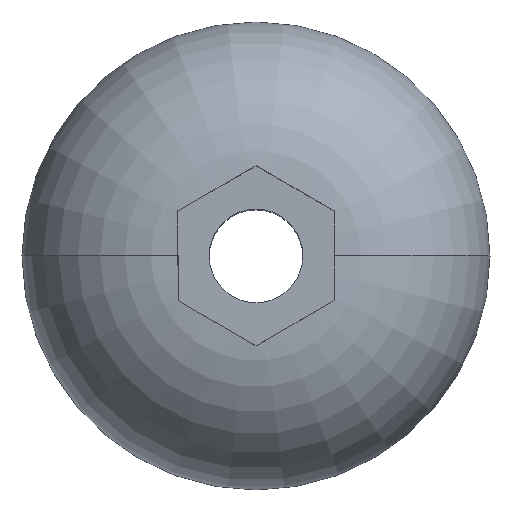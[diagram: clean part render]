
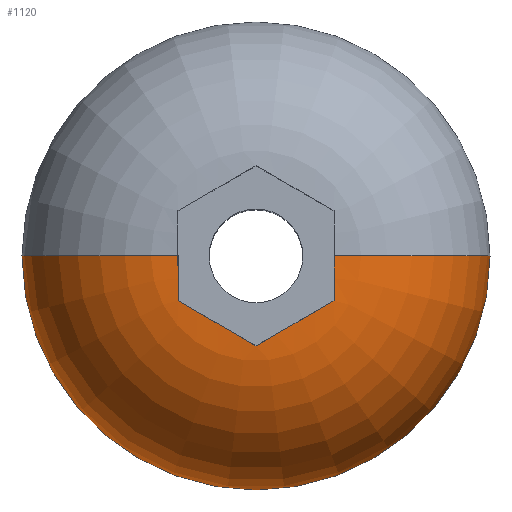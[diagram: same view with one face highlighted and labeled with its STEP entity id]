
A CAD part, top view. The second image highlights one B-rep face of the part: STEP entity #1120.
In plain terms, the highlighted toroidal (fillet/blend) face has major radius 0.75 mm and minor radius 1.5 mm.
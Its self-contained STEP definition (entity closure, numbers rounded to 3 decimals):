
#16 = EDGE_CURVE ( 'NONE', #327, #234, #757, .T. ) ;
#18 = DIRECTION ( 'NONE',  ( 0., 0., 1. ) ) ;
#97 = CARTESIAN_POINT ( 'NONE',  ( -0.125, -0.794, 1.501 ) ) ;
#99 = CARTESIAN_POINT ( 'NONE',  ( 0., -0.866, 1.496 ) ) ;
#108 = CARTESIAN_POINT ( 'NONE',  ( 0.125, -0.794, 1.501 ) ) ;
#110 = ORIENTED_EDGE ( 'NONE', *, *, #1169, .T. ) ;
#119 = EDGE_LOOP ( 'NONE', ( #1206, #110, #634, #876, #715, #673, #739 ) ) ;
#131 = DIRECTION ( 'NONE',  ( 0., 1., 0. ) ) ;
#140 = CARTESIAN_POINT ( 'NONE',  ( -0.75, -0.144, 1.5 ) ) ;
#145 = CARTESIAN_POINT ( 'NONE',  ( -0.75, 0., 1.5 ) ) ;
#147 = B_SPLINE_CURVE_WITH_KNOTS ( 'NONE', 3,
 ( #1241, #1252, #724, #108, #605 ),
 .UNSPECIFIED., .F., .F.,
 ( 4, 1, 4 ),
 ( 0., 0., 0.001 ),
 .UNSPECIFIED. ) ;
#234 = VERTEX_POINT ( 'NONE', #1114 ) ;
#285 = EDGE_CURVE ( 'NONE', #1006, #965, #147, .T. ) ;
#310 = CARTESIAN_POINT ( 'NONE',  ( -0.75, -0.433, 1.496 ) ) ;
#311 = VERTEX_POINT ( 'NONE', #406 ) ;
#327 = VERTEX_POINT ( 'NONE', #818 ) ;
#343 = CARTESIAN_POINT ( 'NONE',  ( 0., 0., 0. ) ) ;
#363 = CARTESIAN_POINT ( 'NONE',  ( -2.25, 0., 0. ) ) ;
#364 = EDGE_CURVE ( 'NONE', #965, #327, #857, .T. ) ;
#379 = CIRCLE ( 'NONE', #504, 1.5 ) ;
#405 = AXIS2_PLACEMENT_3D ( 'NONE', #343, #18, #641 ) ;
#406 = CARTESIAN_POINT ( 'NONE',  ( 2.25, 0., 0. ) ) ;
#418 = FACE_OUTER_BOUND ( 'NONE', #119, .T. ) ;
#430 = DIRECTION ( 'NONE',  ( 0., 0., 1. ) ) ;
#448 = CARTESIAN_POINT ( 'NONE',  ( 0.75, -0.072, 1.5 ) ) ;
#504 = AXIS2_PLACEMENT_3D ( 'NONE', #1109, #1333, #1214 ) ;
#505 = CARTESIAN_POINT ( 'NONE',  ( -0.375, -0.65, 1.499 ) ) ;
#574 = VERTEX_POINT ( 'NONE', #1180 ) ;
#605 = CARTESIAN_POINT ( 'NONE',  ( 0., -0.866, 1.496 ) ) ;
#634 = ORIENTED_EDGE ( 'NONE', *, *, #1307, .T. ) ;
#641 = DIRECTION ( 'NONE',  ( 1., 0., 0. ) ) ;
#673 = ORIENTED_EDGE ( 'NONE', *, *, #364, .T. ) ;
#715 = ORIENTED_EDGE ( 'NONE', *, *, #285, .T. ) ;
#724 = CARTESIAN_POINT ( 'NONE',  ( 0.375, -0.65, 1.499 ) ) ;
#739 = ORIENTED_EDGE ( 'NONE', *, *, #16, .T. ) ;
#748 = CARTESIAN_POINT ( 'NONE',  ( -0.75, -0.289, 1.499 ) ) ;
#757 = B_SPLINE_CURVE_WITH_KNOTS ( 'NONE', 3,
 ( #1163, #958, #748, #140, #849, #145 ),
 .UNSPECIFIED., .F., .F.,
 ( 4, 2, 4 ),
 ( 0.011, 0.012, 0.012 ),
 .UNSPECIFIED. ) ;
#773 = CARTESIAN_POINT ( 'NONE',  ( 0.75, 0., 1.5 ) ) ;
#809 = CARTESIAN_POINT ( 'NONE',  ( -0.625, -0.505, 1.501 ) ) ;
#818 = CARTESIAN_POINT ( 'NONE',  ( -0.75, -0.433, 1.496 ) ) ;
#849 = CARTESIAN_POINT ( 'NONE',  ( -0.75, -0.071, 1.5 ) ) ;
#857 = B_SPLINE_CURVE_WITH_KNOTS ( 'NONE', 3,
 ( #1134, #97, #505, #809, #310 ),
 .UNSPECIFIED., .F., .F.,
 ( 4, 1, 4 ),
 ( 0., 0., 0.001 ),
 .UNSPECIFIED. ) ;
#876 = ORIENTED_EDGE ( 'NONE', *, *, #1251, .T. ) ;
#878 = CIRCLE ( 'NONE', #1249, 1.5 ) ;
#888 = CARTESIAN_POINT ( 'NONE',  ( 0.75, -0.433, 1.496 ) ) ;
#944 = CARTESIAN_POINT ( 'NONE',  ( 0.75, -0.433, 1.496 ) ) ;
#958 = CARTESIAN_POINT ( 'NONE',  ( -0.75, -0.361, 1.498 ) ) ;
#965 = VERTEX_POINT ( 'NONE', #99 ) ;
#971 = CARTESIAN_POINT ( 'NONE',  ( 0.75, -0.144, 1.5 ) ) ;
#976 = B_SPLINE_CURVE_WITH_KNOTS ( 'NONE', 3,
 ( #773, #448, #971, #983, #1076, #888 ),
 .UNSPECIFIED., .F., .F.,
 ( 4, 2, 4 ),
 ( 0., 0., 0. ),
 .UNSPECIFIED. ) ;
#981 = AXIS2_PLACEMENT_3D ( 'NONE', #1161, #430, #1275 ) ;
#983 = CARTESIAN_POINT ( 'NONE',  ( 0.75, -0.289, 1.499 ) ) ;
#1006 = VERTEX_POINT ( 'NONE', #944 ) ;
#1057 = DIRECTION ( 'NONE',  ( -1., 0., 0. ) ) ;
#1076 = CARTESIAN_POINT ( 'NONE',  ( 0.75, -0.361, 1.498 ) ) ;
#1087 = CIRCLE ( 'NONE', #981, 2.25 ) ;
#1109 = CARTESIAN_POINT ( 'NONE',  ( 0.75, 0., 0. ) ) ;
#1114 = CARTESIAN_POINT ( 'NONE',  ( -0.75, 0., 1.5 ) ) ;
#1120 = ADVANCED_FACE ( 'NONE', ( #418 ), #1246, .T. ) ;
#1134 = CARTESIAN_POINT ( 'NONE',  ( 0., -0.866, 1.496 ) ) ;
#1147 = EDGE_CURVE ( 'NONE', #1300, #234, #878, .T. ) ;
#1153 = CARTESIAN_POINT ( 'NONE',  ( -0.75, 0., 0. ) ) ;
#1161 = CARTESIAN_POINT ( 'NONE',  ( 0., 0., 0. ) ) ;
#1163 = CARTESIAN_POINT ( 'NONE',  ( -0.75, -0.433, 1.496 ) ) ;
#1169 = EDGE_CURVE ( 'NONE', #1300, #311, #1087, .T. ) ;
#1180 = CARTESIAN_POINT ( 'NONE',  ( 0.75, 0., 1.5 ) ) ;
#1206 = ORIENTED_EDGE ( 'NONE', *, *, #1147, .F. ) ;
#1214 = DIRECTION ( 'NONE',  ( 0., 0., -1. ) ) ;
#1241 = CARTESIAN_POINT ( 'NONE',  ( 0.75, -0.433, 1.496 ) ) ;
#1246 = TOROIDAL_SURFACE ( 'NONE', #405, 0.75, 1.5 ) ;
#1249 = AXIS2_PLACEMENT_3D ( 'NONE', #1153, #131, #1057 ) ;
#1251 = EDGE_CURVE ( 'NONE', #574, #1006, #976, .T. ) ;
#1252 = CARTESIAN_POINT ( 'NONE',  ( 0.625, -0.505, 1.501 ) ) ;
#1275 = DIRECTION ( 'NONE',  ( 1., 0., 0. ) ) ;
#1300 = VERTEX_POINT ( 'NONE', #363 ) ;
#1307 = EDGE_CURVE ( 'NONE', #311, #574, #379, .T. ) ;
#1333 = DIRECTION ( 'NONE',  ( 0., -1., 0. ) ) ;
